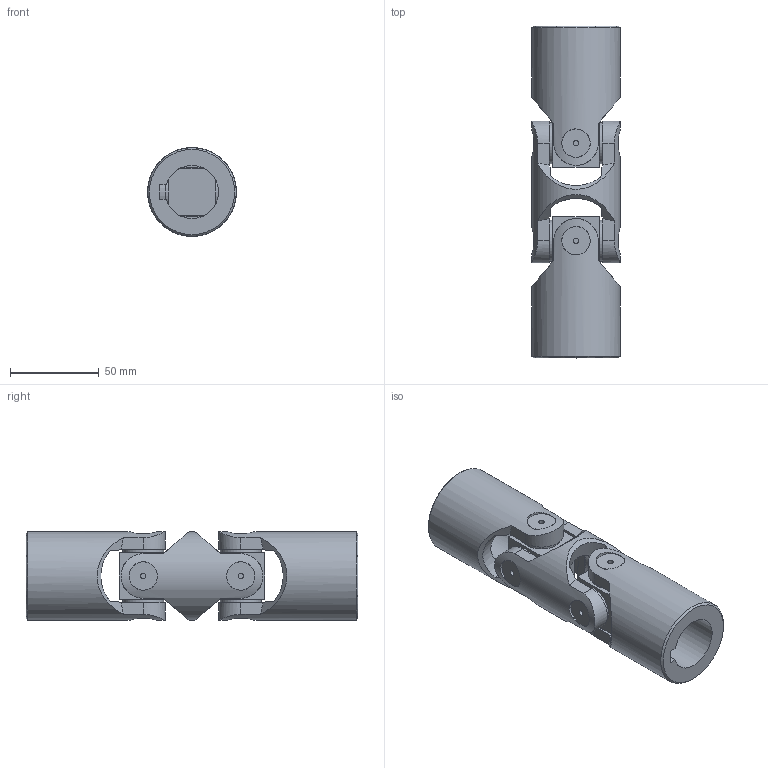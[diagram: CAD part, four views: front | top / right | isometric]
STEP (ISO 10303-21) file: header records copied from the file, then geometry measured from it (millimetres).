
FILE_DESCRIPTION(/* description */ (''),/* implementation_level */ '2;1');
FILE_NAME(/* name */ '\\SRV2016\Societa\Stefano\Disegni 3D\00Catalogo 3D\02Doppi GD-GBD\SGBD301C.stp',/* time_stamp */ '2021-11-23T15:41:35+01:00',/* author */ ('acquisti'),/* organization */ (''),/* preprocessor_version */ 'ST-DEVELOPER v15.6',/* originating_system */ 'Autodesk Inventor 2015',/* authorisation */ '');
FILE_SCHEMA (('AUTOMOTIVE_DESIGN { 1 0 10303 214 3 1 1 }'));
Length unit declared in the file: millimetre
Products named in the file (5): 5G MOD; 5G SFE; 6GB MOC; 6GB MOS; Ø50_6GBD-00_SGBD3000
Assembly tree (5 placements, depth 2):
  Ø50_6GBD-00_SGBD3000
    5G MOD
    5G SFE  x2
    6GB MOC
    6GB MOS
Bounding box: 50 x 187 x 50 mm (x, y, z)
Volume: 224413.7 mm3; surface area: 58584 mm2
Topology: 5 solids, 5 shells, 143 faces, 349 edges, 235 vertices
Faces by surface type: plane 75, cylinder 41, cone 20, torus 7
Full cylindrical faces by diameter (mm): 3 x8, 16 x8, 23 x8, 28 x2, 30 x1, 50 x3
Entity records: 4649 total; most frequent: CARTESIAN_POINT 1744, ORIENTED_EDGE 576, DIRECTION 543, EDGE_CURVE 288, AXIS2_PLACEMENT_3D 238, VERTEX_POINT 216, EDGE_LOOP 184, FACE_OUTER_BOUND 129
